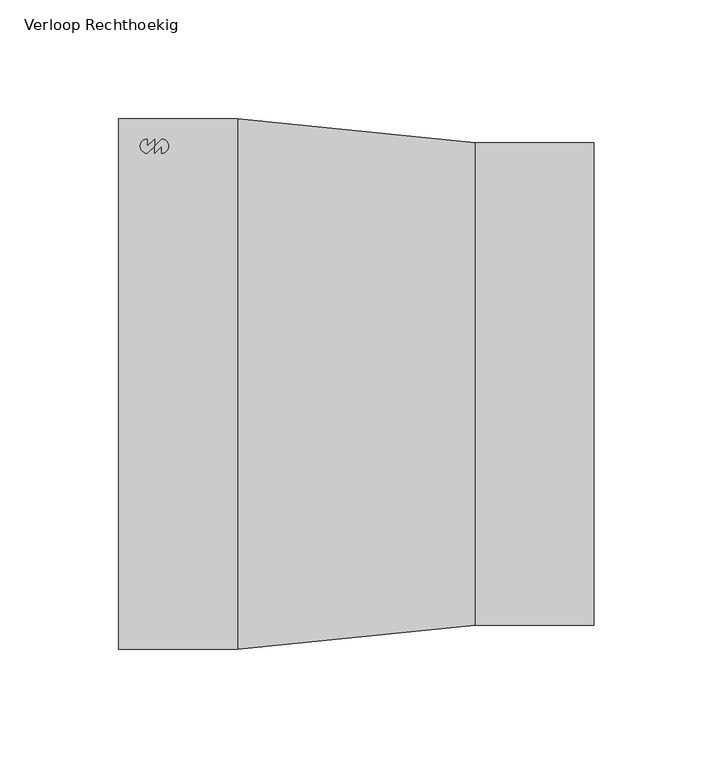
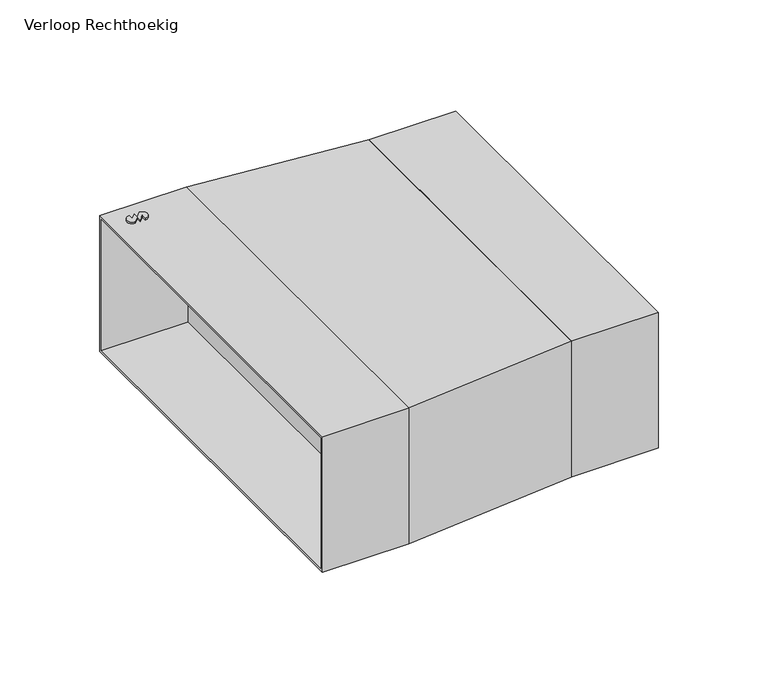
"""IFC4 building model written with IfcOpenShell, lengths in millimetres: duct fitting geometry, NLRS_57_DUF_UN_instortkanaal-rechthoekig-verloop_LT_velu : Verloop Rechthoekig."""

import ifcopenshell
import ifcopenshell.guid

model = None  # the IFC model being written
_history = None  # IfcOwnerHistory: only IFC2X3 demands one
_inside = {}  # id of a spatial element -> (the spatial element, [elements in it])
_under = {}  # id of a project, library or spatial element -> (it, [spatial elements below it])
_declared = {}  # id of a project -> (the project, [libraries it declares])
_typed = {}  # id of a type object -> (the type object, [elements of that type])
_made_of = {}  # id of a material, layer set ... -> (it, [elements and type objects made of it])


def new_model(schema):
    """Start an empty IFC model of exactly this schema.

    Asked for "IFC4X3", IfcOpenShell would pick the latest addendum, in which some entities
    have other attributes; the version numbers below select the first issue.
    IFC2X3 requires an IfcOwnerHistory on every rooted entity: one is made here for all.
    """
    global model, _history
    if schema == "IFC4X3":
        model = ifcopenshell.file(schema_version=(4, 3, 0, 0))
    else:
        model = ifcopenshell.file(schema=schema)
    _inside.clear()
    _under.clear()
    _declared.clear()
    _typed.clear()
    _made_of.clear()
    _history = None
    if model.schema == "IFC2X3":
        org = make("IfcOrganization", Name="unknown")
        user = make(
            "IfcPersonAndOrganization",
            ThePerson=make("IfcPerson", FamilyName="unknown"),
            TheOrganization=org,
        )
        app = make(
            "IfcApplication",
            ApplicationDeveloper=org,
            Version="unknown",
            ApplicationFullName="unknown",
            ApplicationIdentifier="unknown",
        )
        _history = make(
            "IfcOwnerHistory",
            OwningUser=user,
            OwningApplication=app,
            ChangeAction="ADDED",
            CreationDate=0,
        )
    return model


def make(cls, **values):
    """One entity of the class cls with the attributes given. An attribute that is None is left unset."""
    return model.create_entity(
        cls, **{name: value for name, value in values.items() if value is not None}
    )


def rooted(cls, **values):
    """An entity with a GlobalId (a new one), such as an element, a storey or a relation."""
    return make(cls, GlobalId=ifcopenshell.guid.new(), OwnerHistory=_history, **values)


def si_unit(unit_type, name, prefix=None):
    """IfcSIUnit, for example si_unit("LENGTHUNIT", "METRE", prefix="MILLI")."""
    return make("IfcSIUnit", UnitType=unit_type, Prefix=prefix, Name=name)


def assignment(units):
    """IfcUnitAssignment: the units of a project."""
    return None if units is None else make("IfcUnitAssignment", Units=units)


def point(xyz):
    """IfcCartesianPoint."""
    return None if xyz is None else make("IfcCartesianPoint", Coordinates=xyz)


def direction(xyz):
    """IfcDirection."""
    return None if xyz is None else make("IfcDirection", DirectionRatios=xyz)


def frame(location, z_axis=None, x_axis=None):
    """IfcAxis2Placement3D, a coordinate frame: its origin and axes. An axis left out is left unset."""
    return make(
        "IfcAxis2Placement3D",
        Location=point(location),
        Axis=direction(z_axis),
        RefDirection=direction(x_axis),
    )


def frame_2d(location, x_axis=None):
    """IfcAxis2Placement2D, a coordinate frame in the plane: its origin and x axis."""
    return make(
        "IfcAxis2Placement2D", Location=point(location), RefDirection=direction(x_axis)
    )


def origin():
    """The frame at (0, 0, 0) with its axes left unset."""
    return frame((0.0, 0.0, 0.0))


def place(relative_to, where):
    """IfcLocalPlacement: puts the frame where relative to a parent placement (None: the world)."""
    return make(
        "IfcLocalPlacement", PlacementRelTo=relative_to, RelativePlacement=where
    )


def context(
    kind, dimensions, precision=None, world=None, true_north=None, identifier=None
):
    """IfcGeometricRepresentationContext, for example the 3D "Model" context."""
    return make(
        "IfcGeometricRepresentationContext",
        ContextIdentifier=identifier,
        ContextType=kind,
        CoordinateSpaceDimension=dimensions,
        Precision=precision,
        WorldCoordinateSystem=world,
        TrueNorth=true_north,
    )


def project(units=None, contexts=None):
    """IfcProject with its units and contexts."""
    return rooted(
        "IfcProject",
        Name="project",
        RepresentationContexts=contexts,
        UnitsInContext=assignment(units),
    )


def spatial(cls, under=None, at=None, **own):
    """A site, building, storey or space (cls), placed at a placement, below another one or the project."""
    s = rooted(cls, ObjectPlacement=at, **own)
    if under is not None:
        _under.setdefault(under.id(), (under, []))[1].append(s)
    return s


def polyline(points):
    """IfcPolyline through the points."""
    return make("IfcPolyline", Points=[point(p) for p in points])


def circle_curve(where, radius):
    """IfcCircle in the frame where."""
    return make("IfcCircle", Position=where, Radius=radius)


def trimmed(basis, trim1, trim2, sense, master):
    """IfcTrimmedCurve: the piece of a basis curve between two trims."""
    return make(
        "IfcTrimmedCurve",
        BasisCurve=basis,
        Trim1=trim1,
        Trim2=trim2,
        SenseAgreement=sense,
        MasterRepresentation=master,
    )


def segment(curve, same_sense, transition):
    """IfcCompositeCurveSegment."""
    return make(
        "IfcCompositeCurveSegment",
        Transition=transition,
        SameSense=same_sense,
        ParentCurve=curve,
    )


def composite_curve(segments, self_intersect=None):
    """IfcCompositeCurve: segments joined end to end."""
    return make("IfcCompositeCurve", Segments=segments, SelfIntersect=self_intersect)


def outline(outer, holes=None, kind="AREA"):
    """IfcArbitraryClosedProfileDef: a profile drawn as a closed curve; with holes, ...WithVoids."""
    if holes is None:
        return make("IfcArbitraryClosedProfileDef", ProfileType=kind, OuterCurve=outer)
    return make(
        "IfcArbitraryProfileDefWithVoids",
        ProfileType=kind,
        OuterCurve=outer,
        InnerCurves=holes,
    )


def extrude(swept, where, along, depth):
    """IfcExtrudedAreaSolid: the profile swept, set in the frame where, extruded along a direction by depth."""
    return make(
        "IfcExtrudedAreaSolid",
        SweptArea=swept,
        Position=where,
        ExtrudedDirection=direction(along),
        Depth=depth,
    )


def shape(context_of_items, identifier, shape_type, items):
    """IfcShapeRepresentation: the items that make up one representation, for example the "Body"."""
    return make(
        "IfcShapeRepresentation",
        ContextOfItems=context_of_items,
        RepresentationIdentifier=identifier,
        RepresentationType=shape_type,
        Items=items,
    )


def source(mapping_origin, context_of_items, identifier, shape_type, items):
    """IfcRepresentationMap: a shape defined once, which mapped items show again and again."""
    return make(
        "IfcRepresentationMap",
        MappingOrigin=mapping_origin,
        MappedRepresentation=shape(context_of_items, identifier, shape_type, items),
    )


def transform(
    local_origin,
    x_axis=None,
    y_axis=None,
    z_axis=None,
    scale=None,
    scale2=None,
    scale3=None,
    uniform=True,
):
    """IfcCartesianTransformationOperator3D, or its non-uniform kind. x_axis, y_axis, z_axis: its Axis1, 2, 3."""
    if uniform:
        return make(
            "IfcCartesianTransformationOperator3D",
            Axis1=direction(x_axis),
            Axis2=direction(y_axis),
            LocalOrigin=point(local_origin),
            Scale=scale,
            Axis3=direction(z_axis),
        )
    return make(
        "IfcCartesianTransformationOperator3DnonUniform",
        Axis1=direction(x_axis),
        Axis2=direction(y_axis),
        LocalOrigin=point(local_origin),
        Scale=scale,
        Axis3=direction(z_axis),
        Scale2=scale2,
        Scale3=scale3,
    )


def mapped(mapping_source, mapping_target):
    """IfcMappedItem: shows the shape of a source again, moved by a transform."""
    return make(
        "IfcMappedItem", MappingSource=mapping_source, MappingTarget=mapping_target
    )


def made_of(thing, what):
    """Note that an element or type object is made of a material, layer set ...; save() writes the relation."""
    if what is not None:
        _made_of.setdefault(what.id(), (what, []))[1].append(thing)
    return thing


def element(
    cls,
    number,
    at=None,
    inside=None,
    cuts=None,
    type_object=None,
    material=None,
    context=None,
    identifier="Body",
    shape_type=None,
    held_by="IfcProductDefinitionShape",
    body=None,
    shapes=None,
    **own,
):
    """One element of the class cls, such as IfcWall. Its Tag is "e" and its number.

    at: its placement. inside: the storey or other place that contains it. cuts: it is an
    opening in that element (IfcRelVoidsElement). A single representation is given by context,
    identifier, shape_type and body (its items); several are given by shapes. held_by: the class
    of the entity that holds the representations. save() writes the other relations.
    """
    e = rooted(cls, Tag="e%d" % number, ObjectPlacement=at, **own)
    if body is not None:
        shapes = [shape(context, identifier, shape_type, body)]
    if shapes is not None:
        e.Representation = make(held_by, Representations=shapes)
    if inside is not None:
        _inside.setdefault(inside.id(), (inside, []))[1].append(e)
    if cuts is not None:
        rooted(
            "IfcRelVoidsElement", RelatingBuildingElement=cuts, RelatedOpeningElement=e
        )
    if type_object is not None:
        _typed.setdefault(type_object.id(), (type_object, []))[1].append(e)
    return made_of(e, material)


def aggregate(whole, parts):
    """IfcRelAggregates: a whole, such as a stair, and the parts it consists of."""
    return rooted("IfcRelAggregates", RelatingObject=whole, RelatedObjects=parts)


def save(model, path):
    """Write the relations noted so far, then the file.

    IfcRelAggregates (storeys below a building ...), IfcRelContainedInSpatialStructure (elements
    in a storey), IfcRelDefinesByType, IfcRelAssociatesMaterial and IfcRelDeclares: one each for
    every whole, place, type object, material and project.
    """
    for whole, parts in _under.values():
        aggregate(whole, parts)
    for where, things in _inside.values():
        rooted(
            "IfcRelContainedInSpatialStructure",
            RelatedElements=things,
            RelatingStructure=where,
        )
    for kind, things in _typed.values():
        rooted("IfcRelDefinesByType", RelatedObjects=things, RelatingType=kind)
    for what, things in _made_of.values():
        rooted("IfcRelAssociatesMaterial", RelatedObjects=things, RelatingMaterial=what)
    for by, libraries in _declared.values():
        rooted("IfcRelDeclares", RelatingContext=by, RelatedDefinitions=libraries)
    model.write(path)


def verloop_rechthoekig_2b6b2c87(model_context):
    return source(origin(), model_context, "Body", "SweptSolid", [
        extrude(outline(composite_curve([segment(polyline([(-82.0, 97.0), (-82.0, 100.0), (-85.0, 97.0), (-85.0, 100.0), (-82.0, 103.0)]), True, "CONTINUOUS"), segment(trimmed(circle_curve(frame_2d((-82.0, 100.0)), 3.0), [point((-82.0, 103.0))], [point((-82.0, 97.0))], False, "CARTESIAN"), True, "CONTINUOUS")], self_intersect=False)), frame((0.0, 0.0, -42.5), z_axis=(0.0, 0.0, 1.0), x_axis=(1.0, 0.0, 0.0)), (0.0, 0.0, 1.0), 1.0),
        extrude(outline(composite_curve([segment(polyline([(-88.0, 103.0), (-88.0, 100.0), (-85.0, 103.0), (-85.0, 100.0), (-88.0, 97.0)]), True, "CONTINUOUS"), segment(trimmed(circle_curve(frame_2d((-88.0, 100.0)), 3.0), [point((-88.0, 97.0))], [point((-88.0, 103.0))], False, "CARTESIAN"), True, "CONTINUOUS")], self_intersect=False)), frame((0.0, 0.0, -42.5), z_axis=(0.0, 0.0, 1.0), x_axis=(1.0, 0.0, 0.0)), (0.0, 0.0, 1.0), 1.0),
        extrude(outline(composite_curve([segment(polyline([(-88.0, 103.0), (-88.0, 100.0), (-85.0, 103.0), (-85.0, 100.0), (-88.0, 97.0)]), True, "CONTINUOUS"), segment(trimmed(circle_curve(frame_2d((-88.0, 100.0)), 3.0), [point((-88.0, 97.0))], [point((-88.0, 103.0))], False, "CARTESIAN"), True, "CONTINUOUS")], self_intersect=False)), frame((0.0, 0.0, 41.5), z_axis=(0.0, 0.0, 1.0), x_axis=(1.0, 0.0, 0.0)), (0.0, 0.0, 1.0), 1.0),
        extrude(outline(composite_curve([segment(polyline([(-82.0, 97.0), (-82.0, 100.0), (-85.0, 97.0), (-85.0, 100.0), (-82.0, 103.0)]), True, "CONTINUOUS"), segment(trimmed(circle_curve(frame_2d((-82.0, 100.0)), 3.0), [point((-82.0, 103.0))], [point((-82.0, 97.0))], False, "CARTESIAN"), True, "CONTINUOUS")], self_intersect=False)), frame((0.0, 0.0, 41.5), z_axis=(0.0, 0.0, 1.0), x_axis=(1.0, 0.0, 0.0)), (0.0, 0.0, 1.0), 1.0),
        extrude(outline(polyline([(111.5, -41.5), (-111.5, -41.5), (-111.5, 41.5), (111.5, 41.5), (111.5, -41.5)]), holes=[polyline([(110.0, 40.0), (-110.0, 40.0), (-110.0, -40.0), (110.0, -40.0), (110.0, 40.0)])]), frame((-100.0, 0.0, 0.0), z_axis=(1.0, 0.0, 0.0), x_axis=(0.0, 1.0, 0.0)), (0.0, 0.0, 1.0), 50.0),
        extrude(outline(polyline([(101.5, -41.5), (-101.5, -41.5), (-101.5, 41.5), (101.5, 41.5), (101.5, -41.5)]), holes=[polyline([(100.0, 40.0), (-100.0, 40.0), (-100.0, -40.0), (100.0, -40.0), (100.0, 40.0)])]), frame((50.0, 0.0, 0.0), z_axis=(1.0, 0.0, 0.0), x_axis=(0.0, 1.0, 0.0)), (0.0, 0.0, 1.0), 50.0),
        extrude(outline(polyline([(-50.0, -111.5), (-50.0, 111.5), (50.0, 101.5), (50.0, -101.5), (-50.0, -111.5)])), frame((0.0, 0.0, -41.5), z_axis=(0.0, 0.0, 1.0), x_axis=(1.0, 0.0, 0.0)), (0.0, 0.0, 1.0), 83.0),
    ])


if __name__ == "__main__":
    model = new_model("IFC4")
    model_context = context("Model", 3, world=origin())
    ifc_project = project(units=[si_unit("LENGTHUNIT", "METRE", prefix="MILLI")], contexts=[model_context])
    site = spatial("IfcSite", under=ifc_project)
    building = spatial("IfcBuilding", under=site)
    placement = place(None, origin())
    verloop_rechthoekig_shape = verloop_rechthoekig_2b6b2c87(model_context)
    element("IfcDuctFitting", 1, ObjectType="NLRS_57_DUF_UN_instortkanaal-rechthoekig-verloop_LT_velu : Verloop Rechthoekig", at=placement, inside=building, context=model_context, shape_type="MappedRepresentation", body=[
        mapped(verloop_rechthoekig_shape, transform((0.0, 0.0, 0.0), x_axis=(1.0, 0.0, 0.0), y_axis=(0.0, 1.0, 0.0), z_axis=(0.0, 0.0, 1.0))),
    ])
    save(model, "model.ifc")
